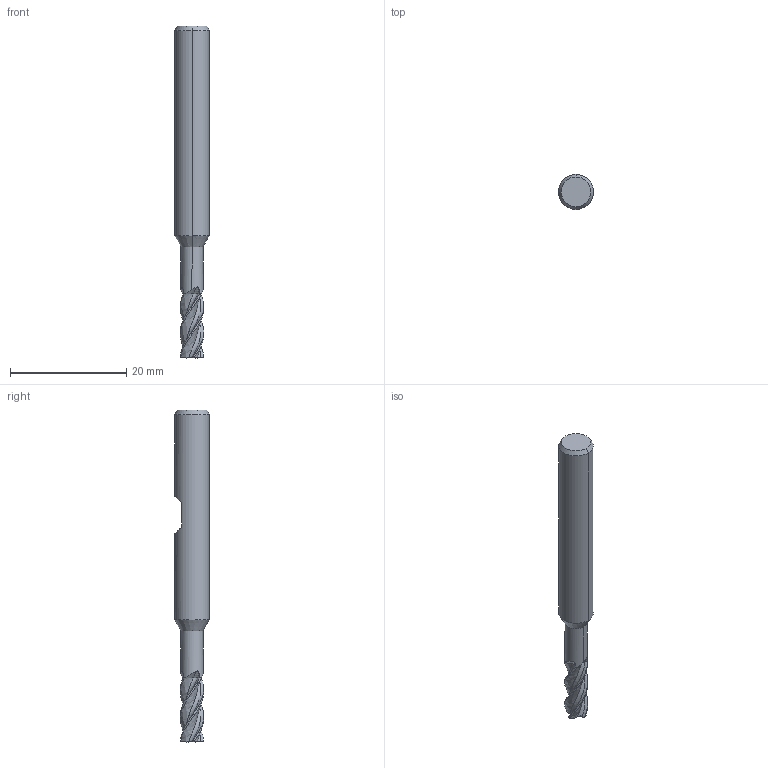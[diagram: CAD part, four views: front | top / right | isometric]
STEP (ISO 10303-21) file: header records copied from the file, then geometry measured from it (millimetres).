
FILE_DESCRIPTION(('no description'),'unknown implementation level');
FILE_NAME('solidD4m00EYJSyLuBcUrOtBCmCIs7V4_1.STP',' ',('CIMSOURCE GmbH'),('CADClick - KiM GmbH - www.kimweb.de'),'unknown preprocess','ACIS','unknown authorization');
FILE_SCHEMA(('automotive_design'));
Length unit declared in the file: millimetre
Products named in the file (2): NOCUT; CUT
Bounding box: 6 x 6 x 57 mm (x, y, z)
Volume: 1194.2 mm3; surface area: 1133.6 mm2
Topology: 2 solids, 2 shells, 125 faces, 348 edges, 226 vertices
Faces by surface type: bspline 48, plane 23, cone 20, cylinder 16, revolution 12, torus 6
Entity records: 19834 total; most frequent: CARTESIAN_POINT 13189, STYLED_ITEM 701, PRESENTATION_STYLE_ASSIGNMENT 701, COLOUR_RGB 701, ORIENTED_EDGE 696, DIRECTION 378, EDGE_CURVE 348, CURVE_STYLE 348
